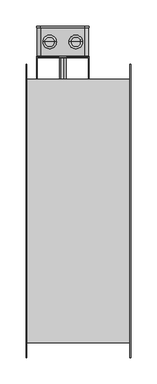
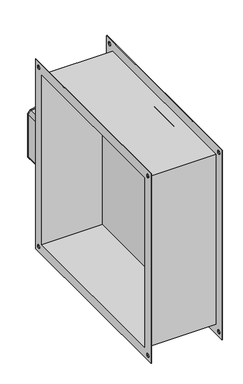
"""IFC4 building model written with IfcOpenShell, lengths in millimetres: damper geometry, СВ_КлапанПротивопожарный_КДМ-2М-3_НЗ_КанальныйПрямоугольный_СВОК : КДМ-3_Привод FS."""

from ifc_helpers import new_model, si_unit, point, frame, frame_2d, origin, place, context, project, spatial, polyline, circle_curve, trimmed, segment, composite_curve, outline, extrude, source, transform, mapped, element, save
from ifc_brep_helpers import plane_surface, cylinder_surface, revolved_surface, advanced_brep


def damper_c23bb0b5(model_context):
    return source(origin(), model_context, "Body", "SolidModel", [
        extrude(outline(polyline([(70.0, -250.0), (70.0, 250.0), (90.0, 250.0), (90.0, -250.0), (70.0, -250.0)])), frame((0.0, 0.0, -250.0), z_axis=(0.0, 0.0, 1.0), x_axis=(1.0, 0.0, 0.0)), (0.0, 0.0, 1.0), 500.0),
        extrude(outline(polyline([(-78.8298911, 251.2), (-80.0298911, 251.2), (-80.0298911, 293.2), (20.0, 293.2), (20.0, 251.2), (18.8, 251.2), (18.8, 292.0), (-78.8298911, 292.0), (-78.8298911, 251.2)])), frame((0.0, 0.0, -80.0), z_axis=(0.0, 0.0, 1.0), x_axis=(1.0, 0.0, 0.0)), (0.0, 0.0, 1.0), 162.5),
        extrude(outline(composite_curve([segment(trimmed(circle_curve(frame_2d((-58.1260091, 9.0)), 11.0298911), [point((-68.5819866, 12.5115572))], [point((-58.1260091, 20.0298911))], False, "CARTESIAN"), True, "CONTINUOUS"), segment(polyline([(-58.1260091, 20.0298911), (66.1260091, 20.0298911)]), True, "CONTINUOUS"), segment(trimmed(circle_curve(frame_2d((66.1260091, 9.0)), 11.0298911), [point((66.1260091, 20.0298911))], [point((76.5819866, 12.5115572))], False, "CARTESIAN"), True, "CONTINUOUS"), segment(trimmed(circle_curve(frame_2d((-50.0, -30.0)), 133.5298911), [point((76.5819866, 12.5115572))], [point((76.5819866, -72.5115572))], False, "CARTESIAN"), True, "CONTINUOUS"), segment(trimmed(circle_curve(frame_2d((66.1260091, -69.0)), 11.0298911), [point((76.5819866, -72.5115572))], [point((66.1260091, -80.0298911))], False, "CARTESIAN"), True, "CONTINUOUS"), segment(polyline([(66.1260091, -80.0298911), (-58.1260091, -80.0298911)]), True, "CONTINUOUS"), segment(trimmed(circle_curve(frame_2d((-58.1260091, -69.0)), 11.0298911), [point((-58.1260091, -80.0298911))], [point((-68.5819866, -72.5115572))], False, "CARTESIAN"), True, "CONTINUOUS"), segment(trimmed(circle_curve(frame_2d((58.0, -30.0)), 133.5298911), [point((-68.5819866, -72.5115572))], [point((-68.5819866, 12.5115572))], False, "CARTESIAN"), True, "CONTINUOUS")], self_intersect=False), holes=[composite_curve([segment(trimmed(circle_curve(frame_2d((66.1260091, -69.0)), 10.0), [point((66.1260091, -79.0))], [point((75.6056834, -72.1836735))], True, "CARTESIAN"), True, "CONTINUOUS"), segment(trimmed(circle_curve(frame_2d((-50.0, -30.0)), 132.5), [point((75.6056834, -72.1836735))], [point((75.6056834, 12.1836735))], True, "CARTESIAN"), True, "CONTINUOUS"), segment(trimmed(circle_curve(frame_2d((66.1260091, 9.0)), 10.0), [point((75.6056834, 12.1836735))], [point((66.1260091, 19.0))], True, "CARTESIAN"), True, "CONTINUOUS"), segment(polyline([(66.1260091, 19.0), (-58.1260091, 19.0)]), True, "CONTINUOUS"), segment(trimmed(circle_curve(frame_2d((-58.1260091, 9.0)), 10.0), [point((-58.1260091, 19.0))], [point((-67.6056834, 12.1836735))], True, "CARTESIAN"), True, "CONTINUOUS"), segment(trimmed(circle_curve(frame_2d((58.0, -30.0)), 132.5), [point((-67.6056834, 12.1836735))], [point((-67.6056834, -72.1836735))], True, "CARTESIAN"), True, "CONTINUOUS"), segment(trimmed(circle_curve(frame_2d((-58.1260091, -69.0)), 10.0), [point((-67.6056834, -72.1836735))], [point((-58.1260091, -79.0))], True, "CARTESIAN"), True, "CONTINUOUS"), segment(polyline([(-58.1260091, -79.0), (66.1260091, -79.0)]), True, "CONTINUOUS")], self_intersect=False)]), frame((0.0, 293.2, 0.0), z_axis=(0.0, 1.0, 0.0), x_axis=(0.0, 0.0, 1.0)), (0.0, 0.0, 1.0), 2.0),
        advanced_brep(
        [(-72.1836735, 349.2, -67.6056834), (-72.1836735, 351.2, -67.6056834), (-79.0, 351.2, -58.1260091), (-79.0, 349.2, -58.1260091), (-72.5115572, 352.2, -68.5819866), (-72.5115572, 349.2, -68.5819866), (-80.0298911, 349.2, -58.1260091), (-80.0298911, 352.2, -58.1260091), (-71.5469388, 351.2, -65.7097485), (-71.5469388, 352.2, -65.7097485), (-77.0, 352.2, -58.1260091), (-77.0, 351.2, -58.1260091), (12.1836735, 349.2, -67.6056834), (12.1836735, 351.2, -67.6056834), (12.5115572, 352.2, -68.5819866), (12.5115572, 349.2, -68.5819866), (11.5469388, 351.2, -65.7097485), (11.5469388, 352.2, -65.7097485), (19.0, 349.2, -58.1260091), (19.0, 351.2, -58.1260091), (20.0298911, 352.2, -58.1260091), (20.0298911, 349.2, -58.1260091), (17.0, 351.2, -58.1260091), (17.0, 352.2, -58.1260091), (19.0, 349.2, 66.1260091), (19.0, 351.2, 66.1260091), (20.0298911, 352.2, 66.1260091), (20.0298911, 349.2, 66.1260091), (17.0, 351.2, 66.1260091), (17.0, 352.2, 66.1260091), (12.1836735, 349.2, 75.6056834), (12.1836735, 351.2, 75.6056834), (12.5115572, 352.2, 76.5819866), (12.5115572, 349.2, 76.5819866), (11.5469388, 351.2, 73.7097485), (11.5469388, 352.2, 73.7097485), (-72.1836735, 349.2, 75.6056834), (-72.1836735, 351.2, 75.6056834), (-72.5115572, 352.2, 76.5819866), (-72.5115572, 349.2, 76.5819866), (-71.5469388, 351.2, 73.7097485), (-71.5469388, 352.2, 73.7097485), (-79.0, 349.2, 66.1260091), (-79.0, 351.2, 66.1260091), (-80.0298911, 352.2, 66.1260091), (-80.0298911, 349.2, 66.1260091), (-77.0, 351.2, 66.1260091), (-77.0, 352.2, 66.1260091)],
        [
            (0, 1),
            (1, 2, circle_curve(frame((-69.0, 351.2, -58.1260091), z_axis=(0.0, 1.0, 0.0), x_axis=(-1.0, 0.0, 0.0)), 10.0)),
            (2, 3),
            (3, 0, circle_curve(frame((-69.0, 349.2, -58.1260091), z_axis=(0.0, -1.0, 0.0), x_axis=(-1.0, 0.0, 0.0)), 10.0)),
            (4, 5),
            (5, 6, circle_curve(frame((-69.0, 349.2, -58.1260091), z_axis=(0.0, 1.0, 0.0), x_axis=(-1.0, 0.0, 0.0)), 11.0298911)),
            (6, 7),
            (7, 4, circle_curve(frame((-69.0, 352.2, -58.1260091), z_axis=(0.0, -1.0, 0.0), x_axis=(-1.0, 0.0, 0.0)), 11.0298911)),
            (8, 9),
            (9, 10, circle_curve(frame((-69.0, 352.2, -58.1260091), z_axis=(0.0, 1.0, 0.0), x_axis=(-1.0, 0.0, 0.0)), 8.0)),
            (10, 11),
            (11, 8, circle_curve(frame((-69.0, 351.2, -58.1260091), z_axis=(0.0, -1.0, 0.0), x_axis=(-1.0, 0.0, 0.0)), 8.0)),
            (12, 13),
            (13, 1, circle_curve(frame((-30.0, 351.2, 58.0), z_axis=(0.0, 1.0, 0.0), x_axis=(-0.31836734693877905, 0.0, -0.947967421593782)), 132.5)),
            (0, 12, circle_curve(frame((-30.0, 349.2, 58.0), z_axis=(0.0, -1.0, 0.0), x_axis=(-0.31836734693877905, 0.0, -0.947967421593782)), 132.5)),
            (14, 15),
            (15, 5, circle_curve(frame((-30.0, 349.2, 58.0), z_axis=(0.0, 1.0, 0.0), x_axis=(-0.31836734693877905, 0.0, -0.947967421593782)), 133.5298911)),
            (4, 14, circle_curve(frame((-30.0, 352.2, 58.0), z_axis=(0.0, -1.0, 0.0), x_axis=(-0.31836734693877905, 0.0, -0.947967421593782)), 133.5298911)),
            (16, 17),
            (17, 9, circle_curve(frame((-30.0, 352.2, 58.0), z_axis=(0.0, 1.0, 0.0), x_axis=(-0.31836734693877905, 0.0, -0.947967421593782)), 130.5)),
            (8, 16, circle_curve(frame((-30.0, 351.2, 58.0), z_axis=(0.0, -1.0, 0.0), x_axis=(-0.31836734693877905, 0.0, -0.947967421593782)), 130.5)),
            (18, 19),
            (19, 13, circle_curve(frame((9.0, 351.2, -58.1260091), z_axis=(0.0, 1.0, 0.0), x_axis=(0.3183673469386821, 0.0, -0.9479674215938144)), 10.0)),
            (12, 18, circle_curve(frame((9.0, 349.2, -58.1260091), z_axis=(0.0, -1.0, 0.0), x_axis=(0.3183673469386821, 0.0, -0.9479674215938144)), 10.0)),
            (20, 21),
            (21, 15, circle_curve(frame((9.0, 349.2, -58.1260091), z_axis=(0.0, 1.0, 0.0), x_axis=(0.3183673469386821, 0.0, -0.9479674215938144)), 11.0298911)),
            (14, 20, circle_curve(frame((9.0, 352.2, -58.1260091), z_axis=(0.0, -1.0, 0.0), x_axis=(0.3183673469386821, 0.0, -0.9479674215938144)), 11.0298911)),
            (22, 23),
            (23, 17, circle_curve(frame((9.0, 352.2, -58.1260091), z_axis=(0.0, 1.0, 0.0), x_axis=(0.3183673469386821, 0.0, -0.9479674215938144)), 8.0)),
            (16, 22, circle_curve(frame((9.0, 351.2, -58.1260091), z_axis=(0.0, -1.0, 0.0), x_axis=(0.3183673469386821, 0.0, -0.9479674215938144)), 8.0)),
            (18, 24),
            (24, 25),
            (25, 19),
            (20, 26),
            (26, 27),
            (27, 21),
            (22, 28),
            (28, 29),
            (29, 23),
            (30, 31),
            (31, 25, circle_curve(frame((9.0, 351.2, 66.1260091), z_axis=(0.0, 1.0, 0.0), x_axis=(1.0, 0.0, 0.0)), 10.0)),
            (24, 30, circle_curve(frame((9.0, 349.2, 66.1260091), z_axis=(0.0, -1.0, 0.0), x_axis=(1.0, 0.0, 0.0)), 10.0)),
            (32, 33),
            (33, 27, circle_curve(frame((9.0, 349.2, 66.1260091), z_axis=(0.0, 1.0, 0.0), x_axis=(1.0, 0.0, 0.0)), 11.0298911)),
            (26, 32, circle_curve(frame((9.0, 352.2, 66.1260091), z_axis=(0.0, -1.0, 0.0), x_axis=(1.0, 0.0, 0.0)), 11.0298911)),
            (34, 35),
            (35, 29, circle_curve(frame((9.0, 352.2, 66.1260091), z_axis=(0.0, 1.0, 0.0), x_axis=(1.0, 0.0, 0.0)), 8.0)),
            (28, 34, circle_curve(frame((9.0, 351.2, 66.1260091), z_axis=(0.0, -1.0, 0.0), x_axis=(1.0, 0.0, 0.0)), 8.0)),
            (36, 37),
            (37, 31, circle_curve(frame((-30.0, 351.2, -50.0), z_axis=(0.0, 1.0, 0.0), x_axis=(0.3183673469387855, 0.0, 0.9479674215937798)), 132.5)),
            (30, 36, circle_curve(frame((-30.0, 349.2, -50.0), z_axis=(0.0, -1.0, 0.0), x_axis=(0.3183673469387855, 0.0, 0.9479674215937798)), 132.5)),
            (38, 39),
            (39, 33, circle_curve(frame((-30.0, 349.2, -50.0), z_axis=(0.0, 1.0, 0.0), x_axis=(0.3183673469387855, 0.0, 0.9479674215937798)), 133.5298911)),
            (32, 38, circle_curve(frame((-30.0, 352.2, -50.0), z_axis=(0.0, -1.0, 0.0), x_axis=(0.3183673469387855, 0.0, 0.9479674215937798)), 133.5298911)),
            (40, 41),
            (41, 35, circle_curve(frame((-30.0, 352.2, -50.0), z_axis=(0.0, 1.0, 0.0), x_axis=(0.3183673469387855, 0.0, 0.9479674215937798)), 130.5)),
            (34, 40, circle_curve(frame((-30.0, 351.2, -50.0), z_axis=(0.0, -1.0, 0.0), x_axis=(0.3183673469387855, 0.0, 0.9479674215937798)), 130.5)),
            (42, 43),
            (43, 37, circle_curve(frame((-69.0, 351.2, 66.1260091), z_axis=(0.0, 1.0, 0.0), x_axis=(-0.3183673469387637, 0.0, 0.947967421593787)), 10.0)),
            (36, 42, circle_curve(frame((-69.0, 349.2, 66.1260091), z_axis=(0.0, -1.0, 0.0), x_axis=(-0.3183673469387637, 0.0, 0.947967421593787)), 10.0)),
            (44, 45),
            (45, 39, circle_curve(frame((-69.0, 349.2, 66.1260091), z_axis=(0.0, 1.0, 0.0), x_axis=(-0.3183673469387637, 0.0, 0.947967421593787)), 11.0298911)),
            (38, 44, circle_curve(frame((-69.0, 352.2, 66.1260091), z_axis=(0.0, -1.0, 0.0), x_axis=(-0.3183673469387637, 0.0, 0.947967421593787)), 11.0298911)),
            (46, 47),
            (47, 41, circle_curve(frame((-69.0, 352.2, 66.1260091), z_axis=(0.0, 1.0, 0.0), x_axis=(-0.3183673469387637, 0.0, 0.947967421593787)), 8.0)),
            (40, 46, circle_curve(frame((-69.0, 351.2, 66.1260091), z_axis=(0.0, -1.0, 0.0), x_axis=(-0.3183673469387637, 0.0, 0.947967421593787)), 8.0)),
            (43, 2),
            (11, 46),
            (42, 3),
            (45, 6),
            (44, 7),
            (47, 10),
        ],
        [
            revolved_surface(polyline([(-79.0, 351.2, -58.1260091), (-79.0, 349.2, -58.1260091)]), (-69.0, 351.2, -58.1260091), (0.0, 1.0, 0.0)),
            cylinder_surface(frame((-69.0, 351.2, -58.1260091), z_axis=(0.0, 1.0, 0.0), x_axis=(-1.0, 0.0, 0.0)), 11.0298911),
            revolved_surface(polyline([(-77.0, 352.2, -58.1260091), (-77.0, 351.2, -58.1260091)]), (-69.0, 351.2, -58.1260091), (0.0, 1.0, 0.0)),
            revolved_surface(polyline([(-72.18367346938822, 351.2, -67.60568336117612), (-72.18367346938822, 349.2, -67.60568336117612)]), (-30.0, 351.2, 58.0), (0.0, 1.0, 0.0)),
            cylinder_surface(frame((-30.0, 351.2, 58.0), z_axis=(0.0, 1.0, 0.0), x_axis=(-0.31836734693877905, 0.0, -0.947967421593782)), 133.5298911),
            revolved_surface(polyline([(-71.54693877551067, 352.2, -65.70974851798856), (-71.54693877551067, 351.2, -65.70974851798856)]), (-30.0, 351.2, 58.0), (0.0, 1.0, 0.0)),
            revolved_surface(polyline([(12.183673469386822, 351.2, -67.60568331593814), (12.183673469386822, 349.2, -67.60568331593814)]), (9.0, 351.2, -58.1260091), (0.0, 1.0, 0.0)),
            cylinder_surface(frame((9.0, 351.2, -58.1260091), z_axis=(0.0, 1.0, 0.0), x_axis=(0.3183673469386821, 0.0, -0.9479674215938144)), 11.0298911),
            revolved_surface(polyline([(11.546938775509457, 352.2, -65.70974847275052), (11.546938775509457, 351.2, -65.70974847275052)]), (9.0, 351.2, -58.1260091), (0.0, 1.0, 0.0)),
            plane_surface(frame((19.0, 351.2, -58.1260091), z_axis=(-1.0, 0.0, 0.0), x_axis=(0.0, 0.0, 1.0))),
            plane_surface(frame((20.0298911, 349.2, -58.1260091), z_axis=(1.0, 0.0, 0.0), x_axis=(0.0, 0.0, 1.0))),
            plane_surface(frame((17.0, 352.2, -58.1260091), z_axis=(-1.0, 0.0, 0.0), x_axis=(0.0, 0.0, 1.0))),
            revolved_surface(polyline([(19.0, 351.2, 66.1260091), (19.0, 349.2, 66.1260091)]), (9.0, 351.2, 66.1260091), (0.0, 1.0, 0.0)),
            cylinder_surface(frame((9.0, 351.2, 66.1260091), z_axis=(0.0, 1.0, 0.0), x_axis=(1.0, 0.0, 0.0)), 11.0298911),
            revolved_surface(polyline([(17.0, 352.2, 66.1260091), (17.0, 351.2, 66.1260091)]), (9.0, 351.2, 66.1260091), (0.0, 1.0, 0.0)),
            revolved_surface(polyline([(12.183673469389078, 351.2, 75.60568336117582), (12.183673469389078, 349.2, 75.60568336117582)]), (-30.0, 351.2, -50.0), (0.0, 1.0, 0.0)),
            cylinder_surface(frame((-30.0, 351.2, -50.0), z_axis=(0.0, 1.0, 0.0), x_axis=(0.3183673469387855, 0.0, 0.9479674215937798)), 133.5298911),
            revolved_surface(polyline([(11.546938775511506, 352.2, 73.70974851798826), (11.546938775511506, 351.2, 73.70974851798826)]), (-30.0, 351.2, -50.0), (0.0, 1.0, 0.0)),
            revolved_surface(polyline([(-72.18367346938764, 351.2, 75.60568331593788), (-72.18367346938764, 349.2, 75.60568331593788)]), (-69.0, 351.2, 66.1260091), (0.0, 1.0, 0.0)),
            cylinder_surface(frame((-69.0, 351.2, 66.1260091), z_axis=(0.0, 1.0, 0.0), x_axis=(-0.3183673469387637, 0.0, 0.947967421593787)), 11.0298911),
            revolved_surface(polyline([(-71.54693877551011, 352.2, 73.7097484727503), (-71.54693877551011, 351.2, 73.7097484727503)]), (-69.0, 351.2, 66.1260091), (0.0, 1.0, 0.0)),
            plane_surface(frame((-77.0, 351.2, 66.1260091), z_axis=(0.0, -1.0, 0.0), x_axis=(0.0, 0.0, -1.0))),
            plane_surface(frame((-79.0, 351.2, 66.1260091), z_axis=(1.0, 0.0, 0.0), x_axis=(0.0, 0.0, -1.0))),
            plane_surface(frame((-79.0, 349.2, 66.1260091), z_axis=(0.0, -1.0, 0.0), x_axis=(0.0, 0.0, -1.0))),
            plane_surface(frame((-80.0298911, 349.2, 66.1260091), z_axis=(-1.0, 0.0, 0.0), x_axis=(0.0, 0.0, -1.0))),
            plane_surface(frame((-80.0298911, 352.2, 66.1260091), z_axis=(0.0, 1.0, 0.0), x_axis=(0.0, 0.0, -1.0))),
            plane_surface(frame((-77.0, 352.2, 66.1260091), z_axis=(1.0, 0.0, 0.0), x_axis=(0.0, 0.0, -1.0))),
        ],
        [
            (0, [[1, 2, 3, 4]]),
            (1, [[5, 6, 7, 8]]),
            (2, [[9, 10, 11, 12]]),
            (3, [[13, 14, -1, 15]]),
            (4, [[16, 17, -5, 18]]),
            (5, [[19, 20, -9, 21]]),
            (6, [[22, 23, -13, 24]]),
            (7, [[25, 26, -16, 27]]),
            (8, [[28, 29, -19, 30]]),
            (9, [[31, 32, 33, -22]]),
            (10, [[34, 35, 36, -25]]),
            (11, [[37, 38, 39, -28]]),
            (12, [[40, 41, -32, 42]]),
            (13, [[43, 44, -35, 45]]),
            (14, [[46, 47, -38, 48]]),
            (15, [[49, 50, -40, 51]]),
            (16, [[52, 53, -43, 54]]),
            (17, [[55, 56, -46, 57]]),
            (18, [[58, 59, -49, 60]]),
            (19, [[61, 62, -52, 63]]),
            (20, [[64, 65, -55, 66]]),
            (21, [[-2, -14, -23, -33, -41, -50, -59, 67], [-48, -37, -30, -21, -12, 68, -66, -57]]),
            (22, [[69, -3, -67, -58]]),
            (23, [[-6, -17, -26, -36, -44, -53, -62, 70], [-42, -31, -24, -15, -4, -69, -60, -51]]),
            (24, [[71, -7, -70, -61]]),
            (25, [[-45, -34, -27, -18, -8, -71, -63, -54], [-10, -20, -29, -39, -47, -56, -65, 72]]),
            (26, [[-68, -11, -72, -64]]),
        ],
    ),
        advanced_brep(
        [(-45.0, 322.2, 82.5), (-43.0228535, 322.2, 82.5), (-66.9771465, 322.2, 82.5), (-65.0, 322.2, 82.5), (-43.0228535, 322.2, 85.4915282), (-66.9771465, 322.2, 85.4915282), (-47.0228535, 322.2, 85.4915282), (-62.9771465, 322.2, 85.4915282), (-47.0228535, 322.2, 87.4754985), (-62.9771465, 322.2, 87.4754985), (-42.0228535, 322.2, 87.4754985), (-67.9771465, 322.2, 87.4754985), (-42.0228535, 322.2, 97.4754985), (-67.9771465, 322.2, 97.4754985), (-45.5583874, 322.2, 101.0110324), (-64.4416126, 322.2, 101.0110324), (-55.0, 322.2, 101.0110324), (-55.0, 322.2, 70.900028), (-45.0, 322.2, 70.900028), (-65.0, 322.2, 70.900028)],
        [
            (0, 1),
            (1, 2, circle_curve(frame((-55.0, 322.2, 82.5), z_axis=(0.0, 0.0, -1.0), x_axis=(-1.0, 0.0, 0.0)), 11.9771465)),
            (2, 3),
            (3, 0, circle_curve(frame((-55.0, 322.2, 82.5), z_axis=(0.0, 0.0, 1.0), x_axis=(-1.0, 0.0, 0.0)), 10.0)),
            (2, 1, circle_curve(frame((-55.0, 322.2, 82.5), z_axis=(0.0, 0.0, -1.0), x_axis=(-1.0, 0.0, 0.0)), 11.9771465)),
            (0, 3, circle_curve(frame((-55.0, 322.2, 82.5), z_axis=(0.0, 0.0, 1.0), x_axis=(-1.0, 0.0, 0.0)), 10.0)),
            (1, 4),
            (4, 5, circle_curve(frame((-55.0, 322.2, 85.4915282), z_axis=(0.0, 0.0, -1.0), x_axis=(-1.0, 0.0, 0.0)), 11.9771465)),
            (5, 2),
            (5, 4, circle_curve(frame((-55.0, 322.2, 85.4915282), z_axis=(0.0, 0.0, -1.0), x_axis=(-1.0, 0.0, 0.0)), 11.9771465)),
            (4, 6),
            (6, 7, circle_curve(frame((-55.0, 322.2, 85.4915282), z_axis=(0.0, 0.0, -1.0), x_axis=(-1.0, 0.0, 0.0)), 7.9771465)),
            (7, 5),
            (7, 6, circle_curve(frame((-55.0, 322.2, 85.4915282), z_axis=(0.0, 0.0, -1.0), x_axis=(-1.0, 0.0, 0.0)), 7.9771465)),
            (6, 8),
            (8, 9, circle_curve(frame((-55.0, 322.2, 87.4754985), z_axis=(0.0, 0.0, -1.0), x_axis=(-1.0, 0.0, 0.0)), 7.9771465)),
            (9, 7),
            (9, 8, circle_curve(frame((-55.0, 322.2, 87.4754985), z_axis=(0.0, 0.0, -1.0), x_axis=(-1.0, 0.0, 0.0)), 7.9771465)),
            (8, 10),
            (10, 11, circle_curve(frame((-55.0, 322.2, 87.4754985), z_axis=(0.0, 0.0, -1.0), x_axis=(-1.0, 0.0, 0.0)), 12.9771465)),
            (11, 9),
            (11, 10, circle_curve(frame((-55.0, 322.2, 87.4754985), z_axis=(0.0, 0.0, -1.0), x_axis=(-1.0, 0.0, 0.0)), 12.9771465)),
            (10, 12),
            (12, 13, circle_curve(frame((-55.0, 322.2, 97.4754985), z_axis=(0.0, 0.0, -1.0), x_axis=(-1.0, 0.0, 0.0)), 12.9771465)),
            (13, 11),
            (13, 12, circle_curve(frame((-55.0, 322.2, 97.4754985), z_axis=(0.0, 0.0, -1.0), x_axis=(-1.0, 0.0, 0.0)), 12.9771465)),
            (12, 14),
            (14, 15, circle_curve(frame((-55.0, 322.2, 101.0110324), z_axis=(0.0, 0.0, -1.0), x_axis=(-1.0, 0.0, 0.0)), 9.4416126)),
            (15, 13),
            (15, 14, circle_curve(frame((-55.0, 322.2, 101.0110324), z_axis=(0.0, 0.0, -1.0), x_axis=(-1.0, 0.0, 0.0)), 9.4416126)),
            (14, 16),
            (16, 15),
            (17, 18),
            (18, 19, circle_curve(frame((-55.0, 322.2, 70.900028), z_axis=(0.0, 0.0, -1.0), x_axis=(-1.0, 0.0, 0.0)), 10.0)),
            (19, 17),
            (19, 18, circle_curve(frame((-55.0, 322.2, 70.900028), z_axis=(0.0, 0.0, -1.0), x_axis=(-1.0, 0.0, 0.0)), 10.0)),
            (18, 0),
            (3, 19),
        ],
        [
            plane_surface(frame((-55.0, 322.2, 82.5), z_axis=(0.0, 0.0, -1.0), x_axis=(-1.0, 0.0, 0.0))),
            cylinder_surface(frame((-55.0, 322.2, 411.314844), z_axis=(0.0, 0.0, -1.0), x_axis=(-1.0, 0.0, 0.0)), 11.9771465),
            plane_surface(frame((-55.0, 322.2, 85.4915282), z_axis=(0.0, 0.0, 1.0), x_axis=(-1.0, 0.0, 0.0))),
            cylinder_surface(frame((-55.0, 322.2, 411.314844), z_axis=(0.0, 0.0, -1.0), x_axis=(-1.0, 0.0, 0.0)), 7.9771465),
            plane_surface(frame((-55.0, 322.2, 87.4754985), z_axis=(0.0, 0.0, -1.0), x_axis=(-1.0, 0.0, 0.0))),
            cylinder_surface(frame((-55.0, 322.2, 411.314844), z_axis=(0.0, 0.0, -1.0), x_axis=(-1.0, 0.0, 0.0)), 12.9771465),
            revolved_surface(polyline([(-64.4416126, 322.2, 101.0110324), (-67.9771465, 322.2, 97.4754985)]), (-55.0, 322.2, 411.314844), (0.0, 0.0, -1.0)),
            plane_surface(frame((-55.0, 322.2, 101.0110324), z_axis=(0.0, 0.0, 1.0), x_axis=(-1.0, 0.0, 0.0))),
            plane_surface(frame((-55.0, 322.2, 70.900028), z_axis=(0.0, 0.0, -1.0), x_axis=(-1.0, 0.0, 0.0))),
            cylinder_surface(frame((-55.0, 322.2, 411.314844), z_axis=(0.0, 0.0, -1.0), x_axis=(-1.0, 0.0, 0.0)), 10.0),
        ],
        [
            (0, [[1, 2, 3, 4]]),
            (0, [[-3, 5, -1, 6]]),
            (1, [[7, 8, 9, -2]]),
            (1, [[-9, 10, -7, -5]]),
            (2, [[11, 12, 13, -8]]),
            (2, [[-13, 14, -11, -10]]),
            (3, [[15, 16, 17, -12]]),
            (3, [[-17, 18, -15, -14]]),
            (4, [[19, 20, 21, -16]]),
            (4, [[-21, 22, -19, -18]]),
            (5, [[23, 24, 25, -20]]),
            (5, [[-25, 26, -23, -22]]),
            (6, [[27, 28, 29, -24]]),
            (6, [[-29, 30, -27, -26]]),
            (7, [[31, 32, -28]]),
            (7, [[-32, -31, -30]]),
            (8, [[33, 34, 35]]),
            (8, [[-35, 36, -33]]),
            (9, [[37, -4, 38, -34]]),
            (9, [[-38, -6, -37, -36]]),
        ],
    ),
        advanced_brep(
        [(-16.9771465, 322.2, 82.5), (-15.0, 322.2, 82.5), (5.0, 322.2, 82.5), (6.9771465, 322.2, 82.5), (-16.9771465, 322.2, 85.4915282), (6.9771465, 322.2, 85.4915282), (-12.9771465, 322.2, 85.4915282), (2.9771465, 322.2, 85.4915282), (-12.9771465, 322.2, 87.4754985), (2.9771465, 322.2, 87.4754985), (-17.9771465, 322.2, 87.4754985), (7.9771465, 322.2, 87.4754985), (-17.9771465, 322.2, 97.4754985), (7.9771465, 322.2, 97.4754985), (-14.4416126, 322.2, 101.0110324), (4.4416126, 322.2, 101.0110324), (-5.0, 322.2, 101.0110324), (-15.0, 322.2, 70.900028), (-5.0, 322.2, 70.900028), (5.0, 322.2, 70.900028)],
        [
            (0, 1),
            (1, 2, circle_curve(frame((-5.0, 322.2, 82.5), z_axis=(0.0, 0.0, 1.0), x_axis=(1.0, 0.0, 0.0)), 10.0)),
            (2, 3),
            (3, 0, circle_curve(frame((-5.0, 322.2, 82.5), z_axis=(0.0, 0.0, -1.0), x_axis=(1.0, 0.0, 0.0)), 11.9771465)),
            (2, 1, circle_curve(frame((-5.0, 322.2, 82.5), z_axis=(0.0, 0.0, 1.0), x_axis=(1.0, 0.0, 0.0)), 10.0)),
            (0, 3, circle_curve(frame((-5.0, 322.2, 82.5), z_axis=(0.0, 0.0, -1.0), x_axis=(1.0, 0.0, 0.0)), 11.9771465)),
            (4, 0),
            (3, 5),
            (5, 4, circle_curve(frame((-5.0, 322.2, 85.4915282), z_axis=(0.0, 0.0, -1.0), x_axis=(1.0, 0.0, 0.0)), 11.9771465)),
            (4, 5, circle_curve(frame((-5.0, 322.2, 85.4915282), z_axis=(0.0, 0.0, -1.0), x_axis=(1.0, 0.0, 0.0)), 11.9771465)),
            (6, 4),
            (5, 7),
            (7, 6, circle_curve(frame((-5.0, 322.2, 85.4915282), z_axis=(0.0, 0.0, -1.0), x_axis=(1.0, 0.0, 0.0)), 7.9771465)),
            (6, 7, circle_curve(frame((-5.0, 322.2, 85.4915282), z_axis=(0.0, 0.0, -1.0), x_axis=(1.0, 0.0, 0.0)), 7.9771465)),
            (8, 6),
            (7, 9),
            (9, 8, circle_curve(frame((-5.0, 322.2, 87.4754985), z_axis=(0.0, 0.0, -1.0), x_axis=(1.0, 0.0, 0.0)), 7.9771465)),
            (8, 9, circle_curve(frame((-5.0, 322.2, 87.4754985), z_axis=(0.0, 0.0, -1.0), x_axis=(1.0, 0.0, 0.0)), 7.9771465)),
            (10, 8),
            (9, 11),
            (11, 10, circle_curve(frame((-5.0, 322.2, 87.4754985), z_axis=(0.0, 0.0, -1.0), x_axis=(1.0, 0.0, 0.0)), 12.9771465)),
            (10, 11, circle_curve(frame((-5.0, 322.2, 87.4754985), z_axis=(0.0, 0.0, -1.0), x_axis=(1.0, 0.0, 0.0)), 12.9771465)),
            (12, 10),
            (11, 13),
            (13, 12, circle_curve(frame((-5.0, 322.2, 97.4754985), z_axis=(0.0, 0.0, -1.0), x_axis=(1.0, 0.0, 0.0)), 12.9771465)),
            (12, 13, circle_curve(frame((-5.0, 322.2, 97.4754985), z_axis=(0.0, 0.0, -1.0), x_axis=(1.0, 0.0, 0.0)), 12.9771465)),
            (14, 12),
            (13, 15),
            (15, 14, circle_curve(frame((-5.0, 322.2, 101.0110324), z_axis=(0.0, 0.0, -1.0), x_axis=(1.0, 0.0, 0.0)), 9.4416126)),
            (14, 15, circle_curve(frame((-5.0, 322.2, 101.0110324), z_axis=(0.0, 0.0, -1.0), x_axis=(1.0, 0.0, 0.0)), 9.4416126)),
            (16, 14),
            (15, 16),
            (17, 18),
            (18, 19),
            (19, 17, circle_curve(frame((-5.0, 322.2, 70.900028), z_axis=(0.0, 0.0, -1.0), x_axis=(1.0, 0.0, 0.0)), 10.0)),
            (17, 19, circle_curve(frame((-5.0, 322.2, 70.900028), z_axis=(0.0, 0.0, -1.0), x_axis=(1.0, 0.0, 0.0)), 10.0)),
            (1, 17),
            (19, 2),
        ],
        [
            plane_surface(frame((-5.0, 322.2, 82.5), z_axis=(0.0, 0.0, -1.0), x_axis=(1.0, 0.0, 0.0))),
            cylinder_surface(frame((-5.0, 322.2, 411.314844), z_axis=(0.0, 0.0, 1.0), x_axis=(1.0, 0.0, 0.0)), 11.9771465),
            plane_surface(frame((-5.0, 322.2, 85.4915282), z_axis=(0.0, 0.0, 1.0), x_axis=(1.0, 0.0, 0.0))),
            cylinder_surface(frame((-5.0, 322.2, 411.314844), z_axis=(0.0, 0.0, 1.0), x_axis=(1.0, 0.0, 0.0)), 7.9771465),
            plane_surface(frame((-5.0, 322.2, 87.4754985), z_axis=(0.0, 0.0, -1.0), x_axis=(1.0, 0.0, 0.0))),
            cylinder_surface(frame((-5.0, 322.2, 411.314844), z_axis=(0.0, 0.0, 1.0), x_axis=(1.0, 0.0, 0.0)), 12.9771465),
            revolved_surface(polyline([(7.9771465, 322.2, 97.4754985), (4.4416126, 322.2, 101.0110324)]), (-5.0, 322.2, 411.314844), (0.0, 0.0, 1.0)),
            plane_surface(frame((-5.0, 322.2, 101.0110324), z_axis=(0.0, 0.0, 1.0), x_axis=(1.0, 0.0, 0.0))),
            plane_surface(frame((-5.0, 322.2, 70.900028), z_axis=(0.0, 0.0, -1.0), x_axis=(1.0, 0.0, 0.0))),
            cylinder_surface(frame((-5.0, 322.2, 411.314844), z_axis=(0.0, 0.0, 1.0), x_axis=(1.0, 0.0, 0.0)), 10.0),
        ],
        [
            (0, [[1, 2, 3, 4]]),
            (0, [[-3, 5, -1, 6]]),
            (1, [[7, -4, 8, 9]]),
            (1, [[-8, -6, -7, 10]]),
            (2, [[11, -9, 12, 13]]),
            (2, [[-12, -10, -11, 14]]),
            (3, [[15, -13, 16, 17]]),
            (3, [[-16, -14, -15, 18]]),
            (4, [[19, -17, 20, 21]]),
            (4, [[-20, -18, -19, 22]]),
            (5, [[23, -21, 24, 25]]),
            (5, [[-24, -22, -23, 26]]),
            (6, [[27, -25, 28, 29]]),
            (6, [[-28, -26, -27, 30]]),
            (7, [[31, -29, 32]]),
            (7, [[-32, -30, -31]]),
            (8, [[33, 34, 35]]),
            (8, [[-34, -33, 36]]),
            (9, [[37, -35, 38, -2]]),
            (9, [[-38, -36, -37, -5]]),
        ],
    ),
        extrude(outline(polyline([(-44.8167305, -27.0074379), (-44.8167305, -32.9925621), (-50.0, -35.9851241), (-55.1832695, -32.9925621), (-55.1832695, -27.0074379), (-50.0, -24.0148759), (-44.8167305, -27.0074379)])), frame((0.0, 251.2, 0.0), z_axis=(0.0, 1.0, 0.0), x_axis=(0.0, 0.0, 1.0)), (0.0, 0.0, 1.0), 100.0),
        advanced_brep(
        [(-72.1836735, 351.2, 75.6056834), (12.1836735, 351.2, 75.6056834), (19.0, 351.2, 66.1260091), (19.0, 351.2, -58.1260091), (12.1836735, 351.2, -67.6056834), (-72.1836735, 351.2, -67.6056834), (-79.0, 351.2, -58.1260091), (-79.0, 351.2, 66.1260091), (-30.0, 351.2, -31.0), (-30.0, 351.2, -69.0), (-30.0, 351.2, -32.0), (-30.0, 351.2, -68.0), (-30.0, 351.2, -35.0), (-30.0, 351.2, -65.0), (-30.0, 351.2, -36.0), (-30.0, 351.2, -64.0), (-35.9954463, 351.2, -55.9954463), (-32.4898351, 351.2, -55.9954463), (-30.0, 351.2, -58.4852814), (-27.5101649, 351.2, -55.9954463), (-24.0045537, 351.2, -55.9954463), (-24.0045537, 351.2, -52.4898351), (-21.5147186, 351.2, -50.0), (-24.0045537, 351.2, -47.5101649), (-24.0045537, 351.2, -44.0045537), (-27.5101649, 351.2, -44.0045537), (-30.0, 351.2, -41.5147186), (-32.4898351, 351.2, -44.0045537), (-35.9954463, 351.2, -44.0045537), (-35.9954463, 351.2, -47.5101649), (-38.4852814, 351.2, -50.0), (-35.9954463, 351.2, -52.4898351), (-72.1836735, 293.2, 75.6056834), (-79.0, 293.2, 66.1260091), (-79.0, 293.2, -58.1260091), (-72.1836735, 293.2, -67.6056834), (12.1836735, 293.2, -67.6056834), (19.0, 293.2, -58.1260091), (19.0, 293.2, 66.1260091), (12.1836735, 293.2, 75.6056834), (-30.0, 346.2, -69.0), (-30.0, 346.2, -31.0), (-30.0, 346.2, -68.0), (-30.0, 346.2, -32.0), (-30.0, 346.2, -65.0), (-30.0, 346.2, -35.0), (-30.0, 346.2, -64.0), (-30.0, 346.2, -36.0), (-35.9954463, 346.2, -52.4898351), (-38.4852814, 346.2, -50.0), (-35.9954463, 346.2, -47.5101649), (-35.9954463, 346.2, -44.0045537), (-32.4898351, 346.2, -44.0045537), (-30.0, 346.2, -41.5147186), (-27.5101649, 346.2, -44.0045537), (-24.0045537, 346.2, -44.0045537), (-24.0045537, 346.2, -47.5101649), (-21.5147186, 346.2, -50.0), (-24.0045537, 346.2, -52.4898351), (-24.0045537, 346.2, -55.9954463), (-27.5101649, 346.2, -55.9954463), (-30.0, 346.2, -58.4852814), (-32.4898351, 346.2, -55.9954463), (-35.9954463, 346.2, -55.9954463)],
        [
            (0, 1, circle_curve(frame((-30.0, 351.2, -50.0), z_axis=(0.0, 1.0, 0.0), x_axis=(0.0, 0.0, 1.0)), 132.5)),
            (1, 2, circle_curve(frame((9.0, 351.2, 66.1260091), z_axis=(0.0, 1.0, 0.0), x_axis=(0.0, 0.0, 1.0)), 10.0)),
            (2, 3),
            (3, 4, circle_curve(frame((9.0, 351.2, -58.1260091), z_axis=(0.0, 1.0, 0.0), x_axis=(0.0, 0.0, 1.0)), 10.0)),
            (4, 5, circle_curve(frame((-30.0, 351.2, 58.0), z_axis=(0.0, 1.0, 0.0), x_axis=(0.0, 0.0, 1.0)), 132.5)),
            (5, 6, circle_curve(frame((-69.0, 351.2, -58.1260091), z_axis=(0.0, 1.0, 0.0), x_axis=(0.0, 0.0, 1.0)), 10.0)),
            (6, 7),
            (7, 0, circle_curve(frame((-69.0, 351.2, 66.1260091), z_axis=(0.0, 1.0, 0.0), x_axis=(0.0, 0.0, 1.0)), 10.0)),
            (8, 9, circle_curve(frame((-30.0, 351.2, -50.0), z_axis=(0.0, -1.0, 0.0), x_axis=(0.0, 0.0, 1.0)), 19.0)),
            (9, 8, circle_curve(frame((-30.0, 351.2, -50.0), z_axis=(0.0, -1.0, 0.0), x_axis=(0.0, 0.0, 1.0)), 19.0)),
            (10, 11, circle_curve(frame((-30.0, 351.2, -50.0), z_axis=(0.0, 1.0, 0.0), x_axis=(0.0, 0.0, 1.0)), 18.0)),
            (11, 10, circle_curve(frame((-30.0, 351.2, -50.0), z_axis=(0.0, 1.0, 0.0), x_axis=(0.0, 0.0, 1.0)), 18.0)),
            (12, 13, circle_curve(frame((-30.0, 351.2, -50.0), z_axis=(0.0, -1.0, 0.0), x_axis=(0.0, 0.0, 1.0)), 15.0)),
            (13, 12, circle_curve(frame((-30.0, 351.2, -50.0), z_axis=(0.0, -1.0, 0.0), x_axis=(0.0, 0.0, 1.0)), 15.0)),
            (14, 15, circle_curve(frame((-30.0, 351.2, -50.0), z_axis=(0.0, 1.0, 0.0), x_axis=(0.0, 0.0, 1.0)), 14.0)),
            (15, 14, circle_curve(frame((-30.0, 351.2, -50.0), z_axis=(0.0, 1.0, 0.0), x_axis=(0.0, 0.0, 1.0)), 14.0)),
            (16, 17),
            (17, 18),
            (18, 19),
            (19, 20),
            (20, 21),
            (21, 22),
            (22, 23),
            (23, 24),
            (24, 25),
            (25, 26),
            (26, 27),
            (27, 28),
            (28, 29),
            (29, 30),
            (30, 31),
            (31, 16),
            (32, 33, circle_curve(frame((-69.0, 293.2, 66.1260091), z_axis=(0.0, -1.0, 0.0), x_axis=(0.0, 0.0, 1.0)), 10.0)),
            (33, 34),
            (34, 35, circle_curve(frame((-69.0, 293.2, -58.1260091), z_axis=(0.0, -1.0, 0.0), x_axis=(0.0, 0.0, 1.0)), 10.0)),
            (35, 36, circle_curve(frame((-30.0, 293.2, 58.0), z_axis=(0.0, -1.0, 0.0), x_axis=(0.0, 0.0, 1.0)), 132.5)),
            (36, 37, circle_curve(frame((9.0, 293.2, -58.1260091), z_axis=(0.0, -1.0, 0.0), x_axis=(0.0, 0.0, 1.0)), 10.0)),
            (37, 38),
            (38, 39, circle_curve(frame((9.0, 293.2, 66.1260091), z_axis=(0.0, -1.0, 0.0), x_axis=(0.0, 0.0, 1.0)), 10.0)),
            (39, 32, circle_curve(frame((-30.0, 293.2, -50.0), z_axis=(0.0, -1.0, 0.0), x_axis=(0.0, 0.0, 1.0)), 132.5)),
            (7, 33),
            (32, 0),
            (6, 34),
            (5, 35),
            (4, 36),
            (3, 37),
            (2, 38),
            (1, 39),
            (40, 41, circle_curve(frame((-30.0, 346.2, -50.0), z_axis=(0.0, 1.0, 0.0), x_axis=(0.0, 0.0, 1.0)), 19.0)),
            (41, 40, circle_curve(frame((-30.0, 346.2, -50.0), z_axis=(0.0, 1.0, 0.0), x_axis=(0.0, 0.0, 1.0)), 19.0)),
            (42, 43, circle_curve(frame((-30.0, 346.2, -50.0), z_axis=(0.0, -1.0, 0.0), x_axis=(0.0, 0.0, 1.0)), 18.0)),
            (43, 42, circle_curve(frame((-30.0, 346.2, -50.0), z_axis=(0.0, -1.0, 0.0), x_axis=(0.0, 0.0, 1.0)), 18.0)),
            (44, 45, circle_curve(frame((-30.0, 346.2, -50.0), z_axis=(0.0, 1.0, 0.0), x_axis=(0.0, 0.0, 1.0)), 15.0)),
            (45, 44, circle_curve(frame((-30.0, 346.2, -50.0), z_axis=(0.0, 1.0, 0.0), x_axis=(0.0, 0.0, 1.0)), 15.0)),
            (46, 47, circle_curve(frame((-30.0, 346.2, -50.0), z_axis=(0.0, -1.0, 0.0), x_axis=(0.0, 0.0, 1.0)), 14.0)),
            (47, 46, circle_curve(frame((-30.0, 346.2, -50.0), z_axis=(0.0, -1.0, 0.0), x_axis=(0.0, 0.0, 1.0)), 14.0)),
            (48, 49),
            (49, 50),
            (50, 51),
            (51, 52),
            (52, 53),
            (53, 54),
            (54, 55),
            (55, 56),
            (56, 57),
            (57, 58),
            (58, 59),
            (59, 60),
            (60, 61),
            (61, 62),
            (62, 63),
            (63, 48),
            (41, 8),
            (9, 40),
            (43, 10),
            (11, 42),
            (45, 12),
            (13, 44),
            (47, 14),
            (15, 46),
            (63, 16),
            (31, 48),
            (62, 17),
            (61, 18),
            (60, 19),
            (59, 20),
            (58, 21),
            (57, 22),
            (56, 23),
            (55, 24),
            (54, 25),
            (53, 26),
            (52, 27),
            (51, 28),
            (50, 29),
            (49, 30),
        ],
        [
            plane_surface(frame((-69.0, 351.2, 76.1260091), z_axis=(0.0, 1.0, 0.0), x_axis=(-1.0, 0.0, 0.0))),
            plane_surface(frame((-69.0, 293.2, 76.1260091), z_axis=(0.0, -1.0, 0.0), x_axis=(1.0, 0.0, 0.0))),
            cylinder_surface(frame((-69.0, 293.2, 66.1260091), z_axis=(0.0, 1.0, 0.0), x_axis=(0.0, 0.0, 1.0)), 10.0),
            plane_surface(frame((-79.0, 351.2, 66.1260091), z_axis=(-1.0, 0.0, 0.0), x_axis=(0.0, -1.0, 0.0))),
            cylinder_surface(frame((-69.0, 293.2, -58.1260091), z_axis=(0.0, 1.0, 0.0), x_axis=(0.0, 0.0, 1.0)), 10.0),
            cylinder_surface(frame((-30.0, 293.2, 58.0), z_axis=(0.0, 1.0, 0.0), x_axis=(0.0, 0.0, 1.0)), 132.5),
            cylinder_surface(frame((9.0, 293.2, -58.1260091), z_axis=(0.0, 1.0, 0.0), x_axis=(0.0, 0.0, 1.0)), 10.0),
            plane_surface(frame((19.0, 351.2, -58.1260091), z_axis=(1.0, 0.0, 0.0), x_axis=(0.0, -1.0, 0.0))),
            cylinder_surface(frame((9.0, 293.2, 66.1260091), z_axis=(0.0, 1.0, 0.0), x_axis=(0.0, 0.0, 1.0)), 10.0),
            cylinder_surface(frame((-30.0, 293.2, -50.0), z_axis=(0.0, 1.0, 0.0), x_axis=(0.0, 0.0, 1.0)), 132.5),
            plane_surface(frame((-30.0, 346.2, -31.0), z_axis=(0.0, 1.0, 0.0), x_axis=(1.0, 0.0, 0.0))),
            revolved_surface(polyline([(-30.0, 351.2, -31.0), (-30.0, 346.2, -31.0)]), (-30.0, 346.2, -50.0), (0.0, 1.0, 0.0)),
            cylinder_surface(frame((-30.0, 251.2, -50.0), z_axis=(0.0, -1.0, 0.0), x_axis=(0.0, 0.0, 1.0)), 18.0),
            revolved_surface(polyline([(-30.0, 351.2, -35.0), (-30.0, 346.2, -35.0)]), (-30.0, 251.2, -50.0), (0.0, 1.0, 0.0)),
            cylinder_surface(frame((-30.0, 251.2, -50.0), z_axis=(0.0, -1.0, 0.0), x_axis=(0.0, 0.0, 1.0)), 14.0),
            plane_surface(frame((-35.9954463, 351.2, -52.4898351), z_axis=(1.0, 0.0, 0.0), x_axis=(0.0, -1.0, 0.0))),
            plane_surface(frame((-35.9954463, 351.2, -55.9954463), z_axis=(0.0, 0.0, 1.0), x_axis=(0.0, -1.0, 0.0))),
            plane_surface(frame((-32.4898351, 351.2, -55.9954463), z_axis=(0.7071067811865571, 0.0, 0.707106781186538), x_axis=(0.0, -1.0, 0.0))),
            plane_surface(frame((-30.0, 351.2, -58.4852814), z_axis=(-0.7071067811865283, 0.0, 0.7071067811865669), x_axis=(0.0, -1.0, 0.0))),
            plane_surface(frame((-27.5101649, 351.2, -55.9954463), z_axis=(0.0, 0.0, 1.0), x_axis=(0.0, -1.0, 0.0))),
            plane_surface(frame((-24.0045537, 351.2, -55.9954463), z_axis=(-1.0, 0.0, 0.0), x_axis=(0.0, -1.0, 0.0))),
            plane_surface(frame((-24.0045537, 351.2, -52.4898351), z_axis=(-0.7071067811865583, 0.0, 0.7071067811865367), x_axis=(0.0, -1.0, 0.0))),
            plane_surface(frame((-21.5147186, 351.2, -50.0), z_axis=(-0.7071067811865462, 0.0, -0.7071067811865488), x_axis=(0.0, -1.0, 0.0))),
            plane_surface(frame((-24.0045537, 351.2, -47.5101649), z_axis=(-1.0, 0.0, 0.0), x_axis=(0.0, -1.0, 0.0))),
            plane_surface(frame((-24.0045537, 351.2, -44.0045537), z_axis=(0.0, 0.0, -1.0), x_axis=(0.0, -1.0, 0.0))),
            plane_surface(frame((-27.5101649, 351.2, -44.0045537), z_axis=(-0.7071067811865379, 0.0, -0.7071067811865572), x_axis=(0.0, -1.0, 0.0))),
            plane_surface(frame((-30.0, 351.2, -41.5147186), z_axis=(0.7071067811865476, 0.0, -0.7071067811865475), x_axis=(0.0, -1.0, 0.0))),
            plane_surface(frame((-32.4898351, 351.2, -44.0045537), z_axis=(0.0, 0.0, -1.0), x_axis=(0.0, -1.0, 0.0))),
            plane_surface(frame((-35.9954463, 351.2, -44.0045537), z_axis=(1.0, 0.0, 0.0), x_axis=(0.0, -1.0, 0.0))),
            plane_surface(frame((-35.9954463, 351.2, -47.5101649), z_axis=(0.7071067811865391, 0.0, -0.7071067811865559), x_axis=(0.0, -1.0, 0.0))),
            plane_surface(frame((-38.4852814, 351.2, -50.0), z_axis=(0.7071067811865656, 0.0, 0.7071067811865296), x_axis=(0.0, -1.0, 0.0))),
        ],
        [
            (0, [[1, 2, 3, 4, 5, 6, 7, 8], [9, 10]]),
            (0, [[11, 12], [13, 14]]),
            (0, [[15, 16], [17, 18, 19, 20, 21, 22, 23, 24, 25, 26, 27, 28, 29, 30, 31, 32]]),
            (1, [[33, 34, 35, 36, 37, 38, 39, 40]]),
            (2, [[41, -33, 42, -8]]),
            (3, [[43, -34, -41, -7]]),
            (4, [[44, -35, -43, -6]]),
            (5, [[45, -36, -44, -5]]),
            (6, [[46, -37, -45, -4]]),
            (7, [[47, -38, -46, -3]]),
            (8, [[48, -39, -47, -2]]),
            (9, [[-42, -40, -48, -1]]),
            (10, [[49, 50], [51, 52]]),
            (10, [[53, 54], [55, 56]]),
            (10, [[57, 58, 59, 60, 61, 62, 63, 64, 65, 66, 67, 68, 69, 70, 71, 72]]),
            (11, [[73, -10, 74, -50]]),
            (11, [[-74, -9, -73, -49]]),
            (12, [[75, -12, 76, -52]]),
            (12, [[-76, -11, -75, -51]]),
            (13, [[77, -14, 78, -54]]),
            (13, [[-78, -13, -77, -53]]),
            (14, [[79, -16, 80, -56]]),
            (14, [[-80, -15, -79, -55]]),
            (15, [[81, -32, 82, -72]]),
            (16, [[83, -17, -81, -71]]),
            (17, [[84, -18, -83, -70]]),
            (18, [[85, -19, -84, -69]]),
            (19, [[86, -20, -85, -68]]),
            (20, [[87, -21, -86, -67]]),
            (21, [[88, -22, -87, -66]]),
            (22, [[89, -23, -88, -65]]),
            (23, [[90, -24, -89, -64]]),
            (24, [[91, -25, -90, -63]]),
            (25, [[92, -26, -91, -62]]),
            (26, [[93, -27, -92, -61]]),
            (27, [[94, -28, -93, -60]]),
            (28, [[95, -29, -94, -59]]),
            (29, [[96, -30, -95, -58]]),
            (30, [[-82, -31, -96, -57]]),
        ],
    ),
        advanced_brep(
        [(98.8, -280.0, 280.0), (98.8, 280.0, 280.0), (98.8, 280.0, -280.0), (98.8, -280.0, -280.0), (98.8, 251.2, 251.2), (98.8, -251.2, 251.2), (98.8, -251.2, -251.2), (98.8, 251.2, -251.2), (98.8, 260.0, 265.0), (98.8, 270.0, 265.0), (98.8, -270.0, 265.0), (98.8, -260.0, 265.0), (98.8, -270.0, -265.0), (98.8, -260.0, -265.0), (98.8, 260.0, -265.0), (98.8, 270.0, -265.0), (100.0, -280.0, 280.0), (100.0, -280.0, -280.0), (100.0, 280.0, -280.0), (100.0, 280.0, 280.0), (100.0, -250.0, 250.0), (100.0, 250.0, 250.0), (100.0, 250.0, -250.0), (100.0, -250.0, -250.0), (100.0, 270.0, 265.0), (100.0, 260.0, 265.0), (100.0, -260.0, 265.0), (100.0, -270.0, 265.0), (100.0, -260.0, -265.0), (100.0, -270.0, -265.0), (100.0, 270.0, -265.0), (100.0, 260.0, -265.0), (-100.0, -280.0, 280.0), (-100.0, 280.0, 280.0), (-100.0, 280.0, -280.0), (-100.0, -280.0, -280.0), (-100.0, -250.0, 250.0), (-100.0, -250.0, -250.0), (-100.0, 250.0, -250.0), (-100.0, 250.0, 250.0), (-100.0, 260.0, 265.0), (-100.0, 270.0, 265.0), (-100.0, -270.0, 265.0), (-100.0, -260.0, 265.0), (-100.0, -270.0, -265.0), (-100.0, -260.0, -265.0), (-100.0, 260.0, -265.0), (-100.0, 270.0, -265.0), (-98.8, -280.0, 280.0), (-98.8, -280.0, -280.0), (-98.8, 280.0, -280.0), (-98.8, 280.0, 280.0), (-98.8, -251.2, 251.2), (-98.8, 251.2, 251.2), (-98.8, 251.2, -251.2), (-98.8, -251.2, -251.2), (-98.8, 270.0, 265.0), (-98.8, 260.0, 265.0), (-98.8, -260.0, 265.0), (-98.8, -270.0, 265.0), (-98.8, -260.0, -265.0), (-98.8, -270.0, -265.0), (-98.8, 270.0, -265.0), (-98.8, 260.0, -265.0)],
        [
            (0, 1),
            (1, 2),
            (2, 3),
            (3, 0),
            (4, 5),
            (5, 6),
            (6, 7),
            (7, 4),
            (8, 9, circle_curve(frame((98.8, 265.0, 265.0), z_axis=(1.0, 0.0, 0.0), x_axis=(0.0, 1.0, 0.0)), 5.0)),
            (9, 8, circle_curve(frame((98.8, 265.0, 265.0), z_axis=(1.0, 0.0, 0.0), x_axis=(0.0, 1.0, 0.0)), 5.0)),
            (10, 11, circle_curve(frame((98.8, -265.0, 265.0), z_axis=(1.0, 0.0, 0.0), x_axis=(0.0, 1.0, 0.0)), 5.0)),
            (11, 10, circle_curve(frame((98.8, -265.0, 265.0), z_axis=(1.0, 0.0, 0.0), x_axis=(0.0, 1.0, 0.0)), 5.0)),
            (12, 13, circle_curve(frame((98.8, -265.0, -265.0), z_axis=(1.0, 0.0, 0.0), x_axis=(0.0, 1.0, 0.0)), 5.0)),
            (13, 12, circle_curve(frame((98.8, -265.0, -265.0), z_axis=(1.0, 0.0, 0.0), x_axis=(0.0, 1.0, 0.0)), 5.0)),
            (14, 15, circle_curve(frame((98.8, 265.0, -265.0), z_axis=(1.0, 0.0, 0.0), x_axis=(0.0, 1.0, 0.0)), 5.0)),
            (15, 14, circle_curve(frame((98.8, 265.0, -265.0), z_axis=(1.0, 0.0, 0.0), x_axis=(0.0, 1.0, 0.0)), 5.0)),
            (16, 17),
            (17, 18),
            (18, 19),
            (19, 16),
            (20, 21),
            (21, 22),
            (22, 23),
            (23, 20),
            (24, 25, circle_curve(frame((100.0, 265.0, 265.0), z_axis=(-1.0, 0.0, 0.0), x_axis=(0.0, 1.0, 0.0)), 5.0)),
            (25, 24, circle_curve(frame((100.0, 265.0, 265.0), z_axis=(-1.0, 0.0, 0.0), x_axis=(0.0, 1.0, 0.0)), 5.0)),
            (26, 27, circle_curve(frame((100.0, -265.0, 265.0), z_axis=(-1.0, 0.0, 0.0), x_axis=(0.0, 1.0, 0.0)), 5.0)),
            (27, 26, circle_curve(frame((100.0, -265.0, 265.0), z_axis=(-1.0, 0.0, 0.0), x_axis=(0.0, 1.0, 0.0)), 5.0)),
            (28, 29, circle_curve(frame((100.0, -265.0, -265.0), z_axis=(-1.0, 0.0, 0.0), x_axis=(0.0, 1.0, 0.0)), 5.0)),
            (29, 28, circle_curve(frame((100.0, -265.0, -265.0), z_axis=(-1.0, 0.0, 0.0), x_axis=(0.0, 1.0, 0.0)), 5.0)),
            (30, 31, circle_curve(frame((100.0, 265.0, -265.0), z_axis=(-1.0, 0.0, 0.0), x_axis=(0.0, 1.0, 0.0)), 5.0)),
            (31, 30, circle_curve(frame((100.0, 265.0, -265.0), z_axis=(-1.0, 0.0, 0.0), x_axis=(0.0, 1.0, 0.0)), 5.0)),
            (32, 33),
            (33, 34),
            (34, 35),
            (35, 32),
            (36, 37),
            (37, 38),
            (38, 39),
            (39, 36),
            (40, 41, circle_curve(frame((-100.0, 265.0, 265.0), z_axis=(1.0, 0.0, 0.0), x_axis=(0.0, 1.0, 0.0)), 5.0)),
            (41, 40, circle_curve(frame((-100.0, 265.0, 265.0), z_axis=(1.0, 0.0, 0.0), x_axis=(0.0, 1.0, 0.0)), 5.0)),
            (42, 43, circle_curve(frame((-100.0, -265.0, 265.0), z_axis=(1.0, 0.0, 0.0), x_axis=(0.0, 1.0, 0.0)), 5.0)),
            (43, 42, circle_curve(frame((-100.0, -265.0, 265.0), z_axis=(1.0, 0.0, 0.0), x_axis=(0.0, 1.0, 0.0)), 5.0)),
            (44, 45, circle_curve(frame((-100.0, -265.0, -265.0), z_axis=(1.0, 0.0, 0.0), x_axis=(0.0, 1.0, 0.0)), 5.0)),
            (45, 44, circle_curve(frame((-100.0, -265.0, -265.0), z_axis=(1.0, 0.0, 0.0), x_axis=(0.0, 1.0, 0.0)), 5.0)),
            (46, 47, circle_curve(frame((-100.0, 265.0, -265.0), z_axis=(1.0, 0.0, 0.0), x_axis=(0.0, 1.0, 0.0)), 5.0)),
            (47, 46, circle_curve(frame((-100.0, 265.0, -265.0), z_axis=(1.0, 0.0, 0.0), x_axis=(0.0, 1.0, 0.0)), 5.0)),
            (48, 49),
            (49, 50),
            (50, 51),
            (51, 48),
            (52, 53),
            (53, 54),
            (54, 55),
            (55, 52),
            (56, 57, circle_curve(frame((-98.8, 265.0, 265.0), z_axis=(-1.0, 0.0, 0.0), x_axis=(0.0, 1.0, 0.0)), 5.0)),
            (57, 56, circle_curve(frame((-98.8, 265.0, 265.0), z_axis=(-1.0, 0.0, 0.0), x_axis=(0.0, 1.0, 0.0)), 5.0)),
            (58, 59, circle_curve(frame((-98.8, -265.0, 265.0), z_axis=(-1.0, 0.0, 0.0), x_axis=(0.0, 1.0, 0.0)), 5.0)),
            (59, 58, circle_curve(frame((-98.8, -265.0, 265.0), z_axis=(-1.0, 0.0, 0.0), x_axis=(0.0, 1.0, 0.0)), 5.0)),
            (60, 61, circle_curve(frame((-98.8, -265.0, -265.0), z_axis=(-1.0, 0.0, 0.0), x_axis=(0.0, 1.0, 0.0)), 5.0)),
            (61, 60, circle_curve(frame((-98.8, -265.0, -265.0), z_axis=(-1.0, 0.0, 0.0), x_axis=(0.0, 1.0, 0.0)), 5.0)),
            (62, 63, circle_curve(frame((-98.8, 265.0, -265.0), z_axis=(-1.0, 0.0, 0.0), x_axis=(0.0, 1.0, 0.0)), 5.0)),
            (63, 62, circle_curve(frame((-98.8, 265.0, -265.0), z_axis=(-1.0, 0.0, 0.0), x_axis=(0.0, 1.0, 0.0)), 5.0)),
            (4, 53),
            (52, 5),
            (55, 6),
            (54, 7),
            (35, 49),
            (48, 32),
            (34, 50),
            (33, 51),
            (20, 36),
            (39, 21),
            (38, 22),
            (37, 23),
            (3, 17),
            (16, 0),
            (2, 18),
            (1, 19),
            (8, 25),
            (24, 9),
            (40, 57),
            (56, 41),
            (10, 27),
            (26, 11),
            (42, 59),
            (58, 43),
            (12, 29),
            (28, 13),
            (44, 61),
            (60, 45),
            (14, 31),
            (30, 15),
            (46, 63),
            (62, 47),
        ],
        [
            plane_surface(frame((98.8, 250.0, 250.0), z_axis=(-1.0, 0.0, 0.0), x_axis=(0.0, -1.0, 0.0))),
            plane_surface(frame((100.0, 250.0, 250.0), z_axis=(1.0, 0.0, 0.0), x_axis=(0.0, 1.0, 0.0))),
            plane_surface(frame((-100.0, 250.0, 250.0), z_axis=(-1.0, 0.0, 0.0), x_axis=(0.0, -1.0, 0.0))),
            plane_surface(frame((-98.8, 250.0, 250.0), z_axis=(1.0, 0.0, 0.0), x_axis=(0.0, 1.0, 0.0))),
            plane_surface(frame((100.0, 251.2, 251.2), z_axis=(0.0, 0.0, 1.0), x_axis=(-1.0, 0.0, 0.0))),
            plane_surface(frame((100.0, -251.2, 251.2), z_axis=(0.0, -1.0, 0.0), x_axis=(-1.0, 0.0, 0.0))),
            plane_surface(frame((100.0, -251.2, -251.2), z_axis=(0.0, 0.0, -1.0), x_axis=(-1.0, 0.0, 0.0))),
            plane_surface(frame((100.0, 251.2, -251.2), z_axis=(0.0, 1.0, 0.0), x_axis=(-1.0, 0.0, 0.0))),
            plane_surface(frame((-98.8, -280.0, 280.0), z_axis=(0.0, -1.0, 0.0), x_axis=(-1.0, 0.0, 0.0))),
            plane_surface(frame((-98.8, -280.0, -280.0), z_axis=(0.0, 0.0, -1.0), x_axis=(-1.0, 0.0, 0.0))),
            plane_surface(frame((-98.8, 280.0, -280.0), z_axis=(0.0, 1.0, 0.0), x_axis=(-1.0, 0.0, 0.0))),
            plane_surface(frame((-98.8, 280.0, 280.0), z_axis=(0.0, 0.0, 1.0), x_axis=(-1.0, 0.0, 0.0))),
            plane_surface(frame((100.0, -250.0, 250.0), z_axis=(0.0, 0.0, -1.0), x_axis=(-1.0, 0.0, 0.0))),
            plane_surface(frame((100.0, 250.0, 250.0), z_axis=(0.0, -1.0, 0.0), x_axis=(-1.0, 0.0, 0.0))),
            plane_surface(frame((100.0, 250.0, -250.0), z_axis=(0.0, 0.0, 1.0), x_axis=(-1.0, 0.0, 0.0))),
            plane_surface(frame((100.0, -250.0, -250.0), z_axis=(0.0, 1.0, 0.0), x_axis=(-1.0, 0.0, 0.0))),
            plane_surface(frame((100.0, -280.0, 280.0), z_axis=(0.0, -1.0, 0.0), x_axis=(-1.0, 0.0, 0.0))),
            plane_surface(frame((100.0, -280.0, -280.0), z_axis=(0.0, 0.0, -1.0), x_axis=(-1.0, 0.0, 0.0))),
            plane_surface(frame((100.0, 280.0, -280.0), z_axis=(0.0, 1.0, 0.0), x_axis=(-1.0, 0.0, 0.0))),
            plane_surface(frame((100.0, 280.0, 280.0), z_axis=(0.0, 0.0, 1.0), x_axis=(-1.0, 0.0, 0.0))),
            revolved_surface(polyline([(100.0, 270.0, 265.0), (98.80000000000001, 270.0, 265.0)]), (-100.0, 265.0, 265.0), (1.0, 0.0, 0.0)),
            revolved_surface(polyline([(-98.8, 270.0, 265.0), (-100.0, 270.0, 265.0)]), (-100.0, 265.0, 265.0), (1.0, 0.0, 0.0)),
            revolved_surface(polyline([(100.0, -260.0, 265.0), (98.8, -260.0, 265.0)]), (-10.0, -265.0, 265.0), (1.0, 0.0, 0.0)),
            revolved_surface(polyline([(-98.8, -260.0, 265.0), (-100.0, -260.0, 265.0)]), (-10.0, -265.0, 265.0), (1.0, 0.0, 0.0)),
            revolved_surface(polyline([(100.0, -260.0, -265.0), (98.8, -260.0, -265.0)]), (-10.0, -265.0, -265.0), (1.0, 0.0, 0.0)),
            revolved_surface(polyline([(-98.8, -260.0, -265.0), (-100.0, -260.0, -265.0)]), (-10.0, -265.0, -265.0), (1.0, 0.0, 0.0)),
            revolved_surface(polyline([(100.0, 270.0, -265.0), (98.8, 270.0, -265.0)]), (-10.0, 265.0, -265.0), (1.0, 0.0, 0.0)),
            revolved_surface(polyline([(-98.8, 270.0, -265.0), (-100.0, 270.0, -265.0)]), (-10.0, 265.0, -265.0), (1.0, 0.0, 0.0)),
        ],
        [
            (0, [[1, 2, 3, 4], [5, 6, 7, 8], [9, 10], [11, 12], [13, 14], [15, 16]]),
            (1, [[17, 18, 19, 20], [21, 22, 23, 24], [25, 26], [27, 28], [29, 30], [31, 32]]),
            (2, [[33, 34, 35, 36], [37, 38, 39, 40], [41, 42], [43, 44], [45, 46], [47, 48]]),
            (3, [[49, 50, 51, 52], [53, 54, 55, 56], [57, 58], [59, 60], [61, 62], [63, 64]]),
            (4, [[65, -53, 66, -5]]),
            (5, [[-66, -56, 67, -6]]),
            (6, [[-67, -55, 68, -7]]),
            (7, [[-65, -8, -68, -54]]),
            (8, [[-36, 69, -49, 70]]),
            (9, [[-35, 71, -50, -69]]),
            (10, [[-34, 72, -51, -71]]),
            (11, [[-33, -70, -52, -72]]),
            (12, [[-21, 73, -40, 74]]),
            (13, [[-22, -74, -39, 75]]),
            (14, [[-23, -75, -38, 76]]),
            (15, [[-73, -24, -76, -37]]),
            (16, [[-4, 77, -17, 78]]),
            (17, [[-3, 79, -18, -77]]),
            (18, [[-2, 80, -19, -79]]),
            (19, [[-1, -78, -20, -80]]),
            (20, [[81, -25, 82, -9]]),
            (21, [[83, -57, 84, -41]]),
            (20, [[-81, -10, -82, -26]]),
            (21, [[-83, -42, -84, -58]]),
            (22, [[85, -27, 86, -11]]),
            (23, [[87, -59, 88, -43]]),
            (22, [[-85, -12, -86, -28]]),
            (23, [[-87, -44, -88, -60]]),
            (24, [[89, -29, 90, -13]]),
            (25, [[91, -61, 92, -45]]),
            (24, [[-89, -14, -90, -30]]),
            (25, [[-91, -46, -92, -62]]),
            (26, [[93, -31, 94, -15]]),
            (27, [[95, -63, 96, -47]]),
            (26, [[-93, -16, -94, -32]]),
            (27, [[-95, -48, -96, -64]]),
        ],
    ),
    ])


if __name__ == "__main__":
    model = new_model("IFC4")
    model_context = context("Model", 3, world=origin())
    ifc_project = project(units=[si_unit("LENGTHUNIT", "METRE", prefix="MILLI")], contexts=[model_context])
    site = spatial("IfcSite", under=ifc_project)
    building = spatial("IfcBuilding", under=site)
    placement = place(None, origin())
    damper_shape = damper_c23bb0b5(model_context)
    element("IfcDamper", 1, ObjectType="СВ_КлапанПротивопожарный_КДМ-2М-3_НЗ_КанальныйПрямоугольный_СВОК : КДМ-3_Привод FS", at=placement, inside=building, context=model_context, shape_type="MappedRepresentation", body=[
        mapped(damper_shape, transform((0.0, 0.0, 0.0), x_axis=(1.0, 0.0, 0.0), y_axis=(0.0, 1.0, 0.0), z_axis=(0.0, 0.0, 1.0))),
    ])
    save(model, "model.ifc")
